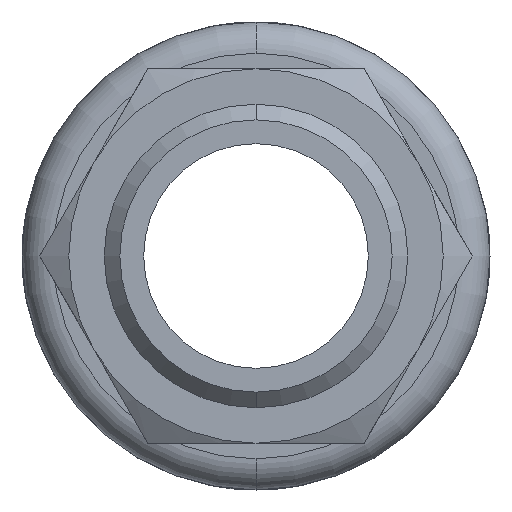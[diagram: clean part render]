
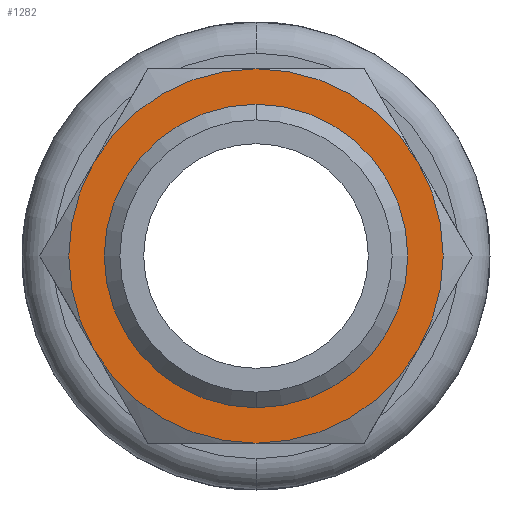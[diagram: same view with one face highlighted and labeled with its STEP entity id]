
A CAD part, front view. The second image highlights one B-rep face of the part: STEP entity #1282.
In plain terms, the highlighted planar face has unit normal (0, -1, 0).
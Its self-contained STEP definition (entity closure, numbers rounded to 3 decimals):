
#48 = VERTEX_POINT ( 'NONE', #2271 ) ;
#169 = CARTESIAN_POINT ( 'NONE',  ( 0., 8., 0. ) ) ;
#171 = EDGE_CURVE ( 'NONE', #2498, #3889, #865, .T. ) ;
#208 = CARTESIAN_POINT ( 'NONE',  ( 0., 8., 0. ) ) ;
#209 = AXIS2_PLACEMENT_3D ( 'NONE', #208, #1383, #4731 ) ;
#295 = VERTEX_POINT ( 'NONE', #2080 ) ;
#306 = AXIS2_PLACEMENT_3D ( 'NONE', #479, #2045, #2806 ) ;
#479 = CARTESIAN_POINT ( 'NONE',  ( 0., 8., 0. ) ) ;
#532 = CARTESIAN_POINT ( 'NONE',  ( 0., 8., 0. ) ) ;
#595 = EDGE_CURVE ( 'NONE', #48, #3480, #799, .T. ) ;
#664 = FACE_OUTER_BOUND ( 'NONE', #4613, .T. ) ;
#714 = DIRECTION ( 'NONE',  ( 0., 1., 0. ) ) ;
#799 = CIRCLE ( 'NONE', #2751, 6. ) ;
#823 = ORIENTED_EDGE ( 'NONE', *, *, #2061, .F. ) ;
#860 = CIRCLE ( 'NONE', #209, 4.283 ) ;
#865 = CIRCLE ( 'NONE', #306, 6. ) ;
#908 = EDGE_LOOP ( 'NONE', ( #2283, #4772 ) ) ;
#911 = AXIS2_PLACEMENT_3D ( 'NONE', #532, #3569, #2847 ) ;
#976 = CIRCLE ( 'NONE', #1997, 4.283 ) ;
#1029 = EDGE_CURVE ( 'NONE', #3766, #3156, #976, .T. ) ;
#1091 = DIRECTION ( 'NONE',  ( 0., 0., 1. ) ) ;
#1205 = DIRECTION ( 'NONE',  ( 0., 1., 0. ) ) ;
#1282 = ADVANCED_FACE ( 'NONE', ( #664, #1433 ), #3223, .T. ) ;
#1334 = CARTESIAN_POINT ( 'NONE',  ( 5.196, 8., -3. ) ) ;
#1349 = CARTESIAN_POINT ( 'NONE',  ( 6.928, 8., 0. ) ) ;
#1377 = DIRECTION ( 'NONE',  ( 0., 0., 1. ) ) ;
#1383 = DIRECTION ( 'NONE',  ( 0., 1., 0. ) ) ;
#1433 = FACE_BOUND ( 'NONE', #908, .T. ) ;
#1463 = EDGE_CURVE ( 'NONE', #2458, #2498, #2825, .T. ) ;
#1578 = AXIS2_PLACEMENT_3D ( 'NONE', #169, #2816, #2059 ) ;
#1583 = CIRCLE ( 'NONE', #911, 6. ) ;
#1589 = DIRECTION ( 'NONE',  ( 0., 0., 1. ) ) ;
#1607 = EDGE_CURVE ( 'NONE', #3156, #3766, #860, .T. ) ;
#1868 = CARTESIAN_POINT ( 'NONE',  ( 0., 8., 4.283 ) ) ;
#1936 = DIRECTION ( 'NONE',  ( 0., -1., 0. ) ) ;
#1997 = AXIS2_PLACEMENT_3D ( 'NONE', #2281, #714, #1091 ) ;
#2020 = DIRECTION ( 'NONE',  ( 0., 1., 0. ) ) ;
#2041 = CARTESIAN_POINT ( 'NONE',  ( 0., 8., 0. ) ) ;
#2045 = DIRECTION ( 'NONE',  ( 0., 1., 0. ) ) ;
#2059 = DIRECTION ( 'NONE',  ( 0., 0., 1. ) ) ;
#2061 = EDGE_CURVE ( 'NONE', #3480, #295, #2099, .T. ) ;
#2080 = CARTESIAN_POINT ( 'NONE',  ( 5.196, 8., 3. ) ) ;
#2099 = CIRCLE ( 'NONE', #2590, 6. ) ;
#2220 = ORIENTED_EDGE ( 'NONE', *, *, #4343, .F. ) ;
#2271 = CARTESIAN_POINT ( 'NONE',  ( -5.196, 8., 3. ) ) ;
#2281 = CARTESIAN_POINT ( 'NONE',  ( 0., 8., 0. ) ) ;
#2283 = ORIENTED_EDGE ( 'NONE', *, *, #1029, .T. ) ;
#2435 = AXIS2_PLACEMENT_3D ( 'NONE', #3270, #3659, #1377 ) ;
#2458 = VERTEX_POINT ( 'NONE', #1334 ) ;
#2480 = CARTESIAN_POINT ( 'NONE',  ( 0., 8., 6. ) ) ;
#2481 = CIRCLE ( 'NONE', #2435, 6. ) ;
#2498 = VERTEX_POINT ( 'NONE', #4644 ) ;
#2552 = CARTESIAN_POINT ( 'NONE',  ( -5.196, 8., -3. ) ) ;
#2590 = AXIS2_PLACEMENT_3D ( 'NONE', #3883, #1205, #1589 ) ;
#2641 = ORIENTED_EDGE ( 'NONE', *, *, #3755, .F. ) ;
#2751 = AXIS2_PLACEMENT_3D ( 'NONE', #2041, #2020, #2801 ) ;
#2769 = ORIENTED_EDGE ( 'NONE', *, *, #595, .F. ) ;
#2801 = DIRECTION ( 'NONE',  ( 0., 0., 1. ) ) ;
#2806 = DIRECTION ( 'NONE',  ( 0., 0., 1. ) ) ;
#2816 = DIRECTION ( 'NONE',  ( 0., 1., 0. ) ) ;
#2825 = CIRCLE ( 'NONE', #1578, 6. ) ;
#2847 = DIRECTION ( 'NONE',  ( 0., 0., 1. ) ) ;
#3156 = VERTEX_POINT ( 'NONE', #1868 ) ;
#3223 = PLANE ( 'NONE',  #4324 ) ;
#3270 = CARTESIAN_POINT ( 'NONE',  ( 0., 8., 0. ) ) ;
#3284 = ORIENTED_EDGE ( 'NONE', *, *, #171, .F. ) ;
#3480 = VERTEX_POINT ( 'NONE', #2480 ) ;
#3569 = DIRECTION ( 'NONE',  ( 0., 1., 0. ) ) ;
#3659 = DIRECTION ( 'NONE',  ( 0., 1., 0. ) ) ;
#3689 = CARTESIAN_POINT ( 'NONE',  ( 0., 8., -4.283 ) ) ;
#3755 = EDGE_CURVE ( 'NONE', #295, #2458, #2481, .T. ) ;
#3766 = VERTEX_POINT ( 'NONE', #3689 ) ;
#3883 = CARTESIAN_POINT ( 'NONE',  ( 0., 8., 0. ) ) ;
#3889 = VERTEX_POINT ( 'NONE', #2552 ) ;
#4194 = ORIENTED_EDGE ( 'NONE', *, *, #1463, .F. ) ;
#4324 = AXIS2_PLACEMENT_3D ( 'NONE', #1349, #1936, #4609 ) ;
#4343 = EDGE_CURVE ( 'NONE', #3889, #48, #1583, .T. ) ;
#4609 = DIRECTION ( 'NONE',  ( 0., 0., -1. ) ) ;
#4613 = EDGE_LOOP ( 'NONE', ( #3284, #4194, #2641, #823, #2769, #2220 ) ) ;
#4644 = CARTESIAN_POINT ( 'NONE',  ( 0., 8., -6. ) ) ;
#4731 = DIRECTION ( 'NONE',  ( 0., 0., 1. ) ) ;
#4772 = ORIENTED_EDGE ( 'NONE', *, *, #1607, .T. ) ;
